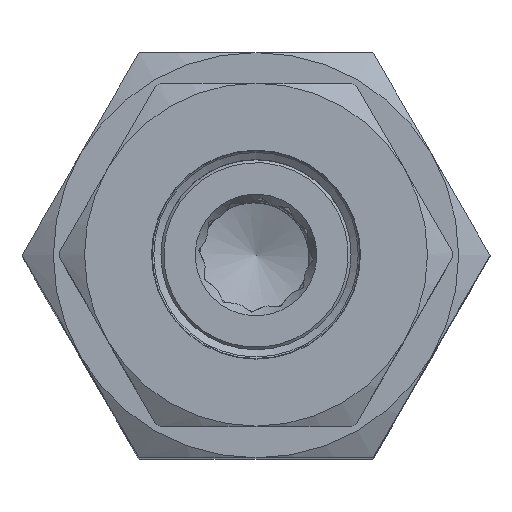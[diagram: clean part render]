
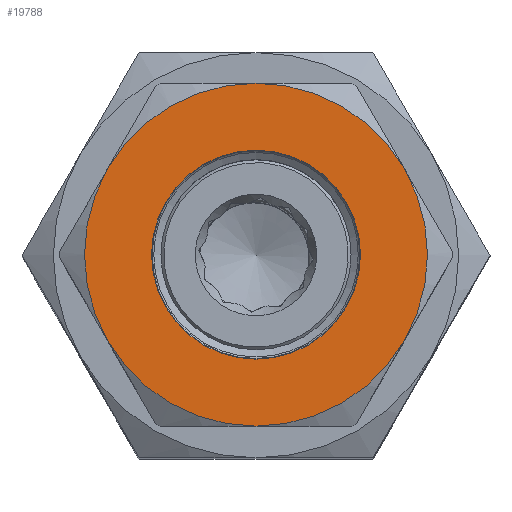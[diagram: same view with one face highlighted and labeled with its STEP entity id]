
A CAD part, top view. The second image highlights one B-rep face of the part: STEP entity #19788.
In plain terms, the highlighted planar face has unit normal (0, 0, 1) as drawn and (-1, 0, 0) by its records, which use the part's own axes.
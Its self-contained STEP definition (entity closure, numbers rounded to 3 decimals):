
#73 = CARTESIAN_POINT ( 'NONE',  ( 0., 0., 0. ) ) ;
#1153 = CARTESIAN_POINT ( 'NONE',  ( 0., 0., -27.5 ) ) ;
#2157 = ORIENTED_EDGE ( 'NONE', *, *, #6943, .T. ) ;
#2250 = CARTESIAN_POINT ( 'NONE',  ( 0., 23.816, 13.75 ) ) ;
#2917 = VERTEX_POINT ( 'NONE', #1153 ) ;
#3296 = EDGE_CURVE ( 'NONE', #6629, #22865, #12551, .T. ) ;
#3767 = DIRECTION ( 'NONE',  ( -1., 0., 0. ) ) ;
#3834 = AXIS2_PLACEMENT_3D ( 'NONE', #25263, #17497, #6938 ) ;
#4106 = VERTEX_POINT ( 'NONE', #2250 ) ;
#4628 = DIRECTION ( 'NONE',  ( -1., 0., 0. ) ) ;
#5308 = CIRCLE ( 'NONE', #9179, 16.75 ) ;
#6504 = CARTESIAN_POINT ( 'NONE',  ( 0., 0., 0. ) ) ;
#6521 = CIRCLE ( 'NONE', #24877, 27.5 ) ;
#6629 = VERTEX_POINT ( 'NONE', #14322 ) ;
#6794 = DIRECTION ( 'NONE',  ( -1., 0., 0. ) ) ;
#6938 = DIRECTION ( 'NONE',  ( 0., 0., 1. ) ) ;
#6943 = EDGE_CURVE ( 'NONE', #14136, #14136, #5308, .T. ) ;
#6983 = EDGE_CURVE ( 'NONE', #20029, #6629, #24957, .T. ) ;
#7256 = CIRCLE ( 'NONE', #3834, 27.5 ) ;
#7695 = EDGE_LOOP ( 'NONE', ( #2157 ) ) ;
#7931 = DIRECTION ( 'NONE',  ( 0., 0., 1. ) ) ;
#9179 = AXIS2_PLACEMENT_3D ( 'NONE', #73, #16426, #24568 ) ;
#9537 = CARTESIAN_POINT ( 'NONE',  ( 0., 0., 0. ) ) ;
#9975 = AXIS2_PLACEMENT_3D ( 'NONE', #17713, #25728, #15862 ) ;
#10722 = DIRECTION ( 'NONE',  ( 0., 0., 1. ) ) ;
#11375 = EDGE_CURVE ( 'NONE', #22865, #4106, #6521, .T. ) ;
#11604 = EDGE_CURVE ( 'NONE', #2917, #20029, #18902, .T. ) ;
#12544 = DIRECTION ( 'NONE',  ( 0., 0., 1. ) ) ;
#12551 = CIRCLE ( 'NONE', #9975, 27.5 ) ;
#13698 = PLANE ( 'NONE',  #24608 ) ;
#14006 = ORIENTED_EDGE ( 'NONE', *, *, #19426, .T. ) ;
#14136 = VERTEX_POINT ( 'NONE', #18786 ) ;
#14322 = CARTESIAN_POINT ( 'NONE',  ( 0., -23.816, 13.75 ) ) ;
#14679 = ORIENTED_EDGE ( 'NONE', *, *, #26235, .T. ) ;
#14707 = DIRECTION ( 'NONE',  ( 0., 0., 1. ) ) ;
#15129 = DIRECTION ( 'NONE',  ( -1., 0., 0. ) ) ;
#15758 = CARTESIAN_POINT ( 'NONE',  ( 0., 0., 27.5 ) ) ;
#15862 = DIRECTION ( 'NONE',  ( 0., 0., 1. ) ) ;
#16426 = DIRECTION ( 'NONE',  ( 1., 0., 0. ) ) ;
#17422 = ORIENTED_EDGE ( 'NONE', *, *, #6983, .T. ) ;
#17497 = DIRECTION ( 'NONE',  ( -1., 0., 0. ) ) ;
#17713 = CARTESIAN_POINT ( 'NONE',  ( 0., 0., 0. ) ) ;
#18082 = FACE_BOUND ( 'NONE', #7695, .T. ) ;
#18565 = AXIS2_PLACEMENT_3D ( 'NONE', #6504, #24830, #20549 ) ;
#18774 = VERTEX_POINT ( 'NONE', #19570 ) ;
#18786 = CARTESIAN_POINT ( 'NONE',  ( 0., 0., 16.75 ) ) ;
#18902 = CIRCLE ( 'NONE', #19759, 27.5 ) ;
#19426 = EDGE_CURVE ( 'NONE', #4106, #18774, #24589, .T. ) ;
#19570 = CARTESIAN_POINT ( 'NONE',  ( 0., 23.816, -13.75 ) ) ;
#19759 = AXIS2_PLACEMENT_3D ( 'NONE', #24852, #6794, #14707 ) ;
#19788 = ADVANCED_FACE ( 'NONE', ( #18082, #22107 ), #13698, .T. ) ;
#20029 = VERTEX_POINT ( 'NONE', #23146 ) ;
#20549 = DIRECTION ( 'NONE',  ( 0., 0., 1. ) ) ;
#20979 = ORIENTED_EDGE ( 'NONE', *, *, #11375, .T. ) ;
#22107 = FACE_OUTER_BOUND ( 'NONE', #24475, .T. ) ;
#22865 = VERTEX_POINT ( 'NONE', #15758 ) ;
#22881 = CARTESIAN_POINT ( 'NONE',  ( 0., 0., 0. ) ) ;
#23075 = ORIENTED_EDGE ( 'NONE', *, *, #3296, .T. ) ;
#23146 = CARTESIAN_POINT ( 'NONE',  ( 0., -23.816, -13.75 ) ) ;
#24475 = EDGE_LOOP ( 'NONE', ( #20979, #14006, #14679, #25029, #17422, #23075 ) ) ;
#24568 = DIRECTION ( 'NONE',  ( 0., 0., 1. ) ) ;
#24589 = CIRCLE ( 'NONE', #26313, 27.5 ) ;
#24608 = AXIS2_PLACEMENT_3D ( 'NONE', #9537, #3767, #7931 ) ;
#24830 = DIRECTION ( 'NONE',  ( -1., 0., 0. ) ) ;
#24852 = CARTESIAN_POINT ( 'NONE',  ( 0., 0., 0. ) ) ;
#24877 = AXIS2_PLACEMENT_3D ( 'NONE', #22881, #15129, #10722 ) ;
#24957 = CIRCLE ( 'NONE', #18565, 27.5 ) ;
#24961 = CARTESIAN_POINT ( 'NONE',  ( 0., 0., 0. ) ) ;
#25029 = ORIENTED_EDGE ( 'NONE', *, *, #11604, .T. ) ;
#25263 = CARTESIAN_POINT ( 'NONE',  ( 0., 0., 0. ) ) ;
#25728 = DIRECTION ( 'NONE',  ( -1., 0., 0. ) ) ;
#26235 = EDGE_CURVE ( 'NONE', #18774, #2917, #7256, .T. ) ;
#26313 = AXIS2_PLACEMENT_3D ( 'NONE', #24961, #4628, #12544 ) ;
